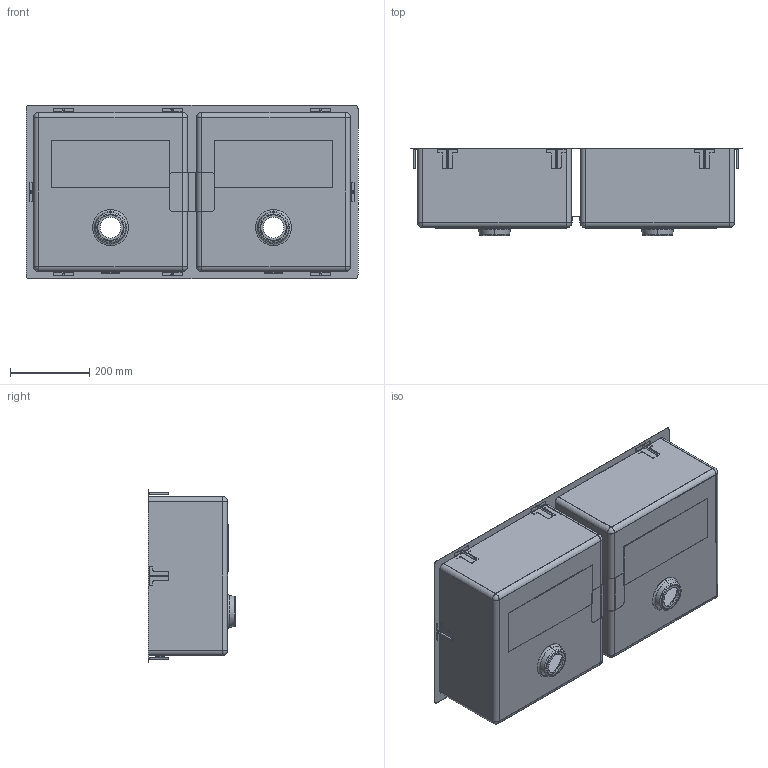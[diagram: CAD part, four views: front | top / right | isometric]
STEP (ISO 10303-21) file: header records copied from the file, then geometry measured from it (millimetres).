
FILE_DESCRIPTION (( 'STEP AP203' ), '1' );
FILE_NAME ('Matra 84x44 2v.STEP', '2021-01-27T15:54:52', ( 'Utente Windows' ), ( '' ), 'SwSTEP 2.0', 'SolidWorks 2020', '' );
FILE_SCHEMA (( 'CONFIG_CONTROL_DESIGN' ));
Length unit declared in the file: millimetre
Products named in the file (14): GB17P1 - base gancio_Piegato; Ass. GB17P6; Matra 84x44 2v; GB17P4 - inserto filettato M5; TF13 - smorzante 300x120x1,8; Matra - piletta integrata_84x44 2v SMEG; RC16 piegato
Assembly tree (28 placements, depth 3):
  Matra 84x44 2v
    Matra - piletta integrata_84x44 2v SMEG
    Ass. GB17P6
      GB17P1 - base gancio_Piegato
      GB17P4 - inserto filettato M5
    TF13 - smorzante 300x120x1,8  x2
    Ass. GB17P6
      GB17P1 - base gancio_Piegato
      GB17P4 - inserto filettato M5
    RC16 piegato
    Ass. GB17P6
      GB17P1 - base gancio_Piegato
      GB17P4 - inserto filettato M5
    Ass. GB17P6
      GB17P1 - base gancio_Piegato
      GB17P4 - inserto filettato M5
    Ass. GB17P6
      GB17P1 - base gancio_Piegato
      GB17P4 - inserto filettato M5
    Ass. GB17P6
      GB17P1 - base gancio_Piegato
      GB17P4 - inserto filettato M5
    Ass. GB17P6
      GB17P1 - base gancio_Piegato
      GB17P4 - inserto filettato M5
    Ass. GB17P6
      GB17P1 - base gancio_Piegato
      GB17P4 - inserto filettato M5
Bounding box: 840 x 221.9 x 440 mm (x, y, z)
Volume: 1049537.6 mm3; surface area: 2178812.3 mm2
Topology: 20 solids, 20 shells, 542 faces, 1342 edges, 828 vertices
Faces by surface type: plane 284, cylinder 186, cone 40, torus 16, sphere 16
Entity records: 11276 total; most frequent: DIRECTION 1750, CARTESIAN_POINT 1658, ORIENTED_EDGE 1564, EDGE_CURVE 782, AXIS2_PLACEMENT_3D 640, VERTEX_POINT 484, LINE 470, VECTOR 470
